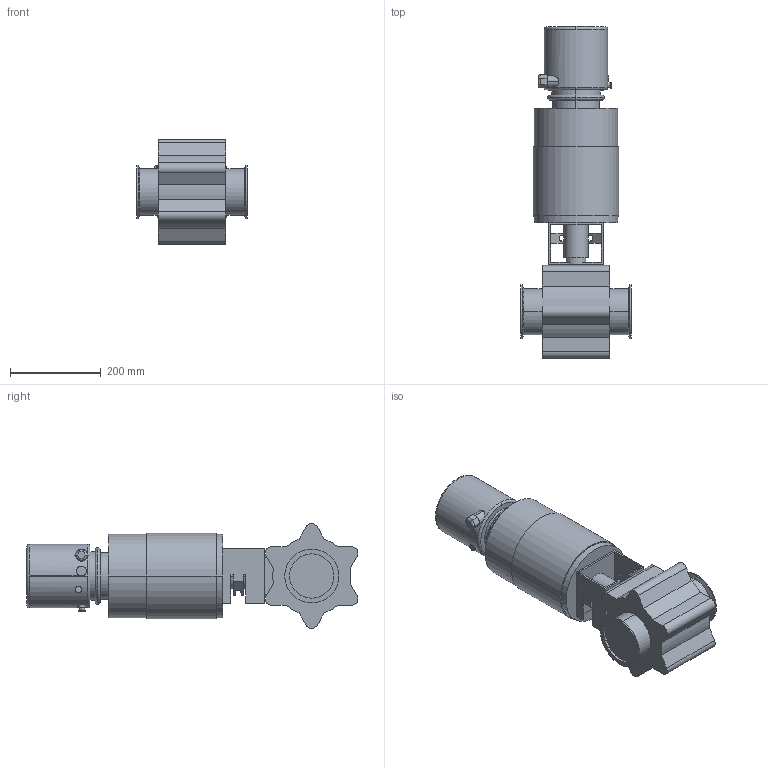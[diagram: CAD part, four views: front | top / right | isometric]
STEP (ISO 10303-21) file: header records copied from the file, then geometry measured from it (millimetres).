
FILE_DESCRIPTION(('Creo Elements/Direct Modeling STEP Export'),'2;1');
FILE_NAME('BLV1-4T-NC-12CL-CU4.stp','2019-05-10T 8:31:37',(''),(''),'Creo Elements/Direct Modeling STEP processor for AP214 (Solid Model)','Creo Elements/Direct Modeling 19.0F 14-Feb-2017 (C) Parametric Technology GmbH','');
FILE_SCHEMA(('AUTOMOTIVE_DESIGN { 1 0 10303 214 1 1 1 1 }'));
Length unit declared in the file: millimetre
Products named in the file (2): BLV1-4T-NC-12CL-CU4
Assembly tree (1 placements, depth 2):
  BLV1-4T-NC-12CL-CU4
    BLV1-4T-NC-12CL-CU4
Bounding box: 243 x 731.7 x 231 mm (x, y, z)
Volume: 15058644.6 mm3; surface area: 587316.5 mm2
Topology: 1 solids, 2 shells, 262 faces, 675 edges, 440 vertices
Faces by surface type: cylinder 130, plane 118, torus 10, cone 4
Entity records: 10956 total; most frequent: CARTESIAN_POINT 4587, ORIENTED_EDGE 1352, DIRECTION 1253, EDGE_CURVE 676, AXIS2_PLACEMENT_3D 459, VERTEX_POINT 440, VECTOR 335, LINE 335
